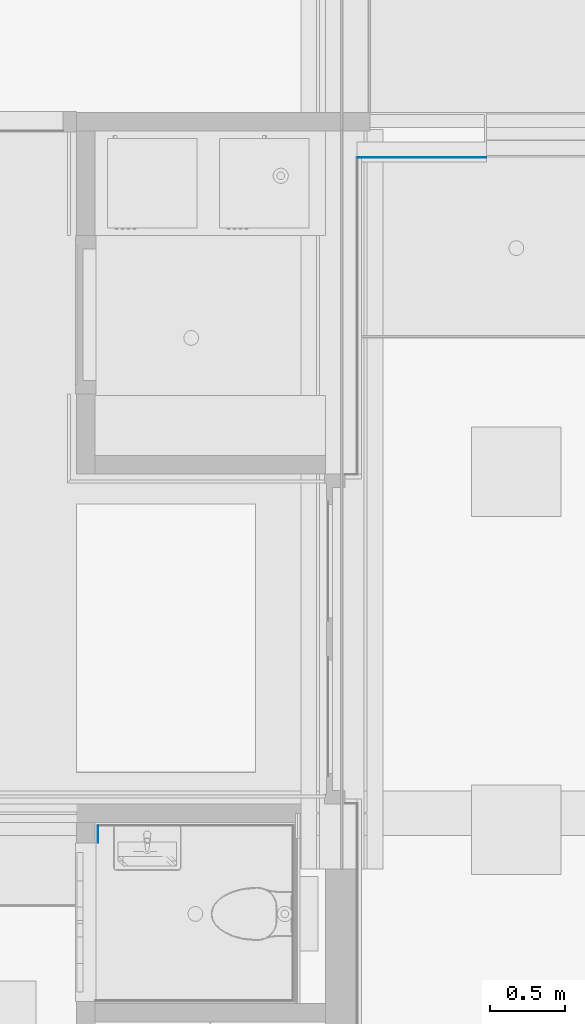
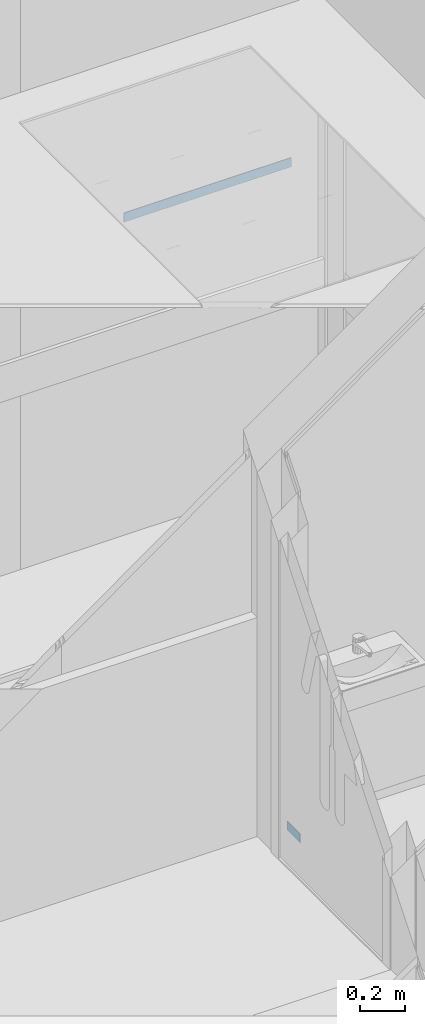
# One storey, part 129 of 347: 2 building element parts, 2 elements without a shape of their own.
"""IFC2X3 building model written with IfcOpenShell, lengths in millimetres."""

import ifcopenshell
import ifcopenshell.guid

model = None  # the IFC model being written
_history = None  # IfcOwnerHistory: only IFC2X3 demands one
_inside = {}  # id of a spatial element -> (the spatial element, [elements in it])
_under = {}  # id of a project, library or spatial element -> (it, [spatial elements below it])
_declared = {}  # id of a project -> (the project, [libraries it declares])
_typed = {}  # id of a type object -> (the type object, [elements of that type])
_made_of = {}  # id of a material, layer set ... -> (it, [elements and type objects made of it])


def new_model(schema):
    """Start an empty IFC model of exactly this schema.

    Asked for "IFC4X3", IfcOpenShell would pick the latest addendum, in which some entities
    have other attributes; the version numbers below select the first issue.
    IFC2X3 requires an IfcOwnerHistory on every rooted entity: one is made here for all.
    """
    global model, _history
    if schema == "IFC4X3":
        model = ifcopenshell.file(schema_version=(4, 3, 0, 0))
    else:
        model = ifcopenshell.file(schema=schema)
    _inside.clear()
    _under.clear()
    _declared.clear()
    _typed.clear()
    _made_of.clear()
    _history = None
    if model.schema == "IFC2X3":
        org = make("IfcOrganization", Name="unknown")
        user = make(
            "IfcPersonAndOrganization",
            ThePerson=make("IfcPerson", FamilyName="unknown"),
            TheOrganization=org,
        )
        app = make(
            "IfcApplication",
            ApplicationDeveloper=org,
            Version="unknown",
            ApplicationFullName="unknown",
            ApplicationIdentifier="unknown",
        )
        _history = make(
            "IfcOwnerHistory",
            OwningUser=user,
            OwningApplication=app,
            ChangeAction="ADDED",
            CreationDate=0,
        )
    return model


def make(cls, **values):
    """One entity of the class cls with the attributes given. An attribute that is None is left unset."""
    return model.create_entity(
        cls, **{name: value for name, value in values.items() if value is not None}
    )


def entity(cls, *values):
    """Any entity or typed value of the class cls, its attributes in the order of the schema. None: left unset."""
    e = model.create_entity(cls)
    for i, value in enumerate(values):
        if value is not None:
            e[i] = value
    return e


def rooted(cls, **values):
    """An entity with a GlobalId (a new one), such as an element, a storey or a relation."""
    return make(cls, GlobalId=ifcopenshell.guid.new(), OwnerHistory=_history, **values)


def si_unit(unit_type, name, prefix=None):
    """IfcSIUnit, for example si_unit("LENGTHUNIT", "METRE", prefix="MILLI")."""
    return make("IfcSIUnit", UnitType=unit_type, Prefix=prefix, Name=name)


def converted_unit(unit_type, name, factor, base, dimensions=None, offset=None):
    """IfcConversionBasedUnit, such as the inch: factor (a typed value) times the base unit."""
    return make(
        "IfcConversionBasedUnit"
        if offset is None
        else "IfcConversionBasedUnitWithOffset",
        ConversionOffset=offset,
        Dimensions=None
        if dimensions is None
        else entity("IfcDimensionalExponents", *dimensions),
        UnitType=unit_type,
        Name=name,
        ConversionFactor=make(
            "IfcMeasureWithUnit", ValueComponent=factor, UnitComponent=base
        ),
    )


def derived_unit(unit_type, elements):
    """IfcDerivedUnit: a product of units, each with its exponent."""
    return make(
        "IfcDerivedUnit",
        Elements=[
            make("IfcDerivedUnitElement", Unit=unit, Exponent=power)
            for unit, power in elements
        ],
        UnitType=unit_type,
    )


def money_unit(currency):
    """IfcMonetaryUnit."""
    return make("IfcMonetaryUnit", Currency=currency)


def assignment(units):
    """IfcUnitAssignment: the units of a project."""
    return None if units is None else make("IfcUnitAssignment", Units=units)


def point(xyz):
    """IfcCartesianPoint."""
    return None if xyz is None else make("IfcCartesianPoint", Coordinates=xyz)


def direction(xyz):
    """IfcDirection."""
    return None if xyz is None else make("IfcDirection", DirectionRatios=xyz)


def frame(location, z_axis=None, x_axis=None):
    """IfcAxis2Placement3D, a coordinate frame: its origin and axes. An axis left out is left unset."""
    return make(
        "IfcAxis2Placement3D",
        Location=point(location),
        Axis=direction(z_axis),
        RefDirection=direction(x_axis),
    )


def origin_with_axes():
    """The frame at (0, 0, 0) with the z axis (0, 0, 1) and the x axis (1, 0, 0) written out."""
    return frame((0.0, 0.0, 0.0), z_axis=(0.0, 0.0, 1.0), x_axis=(1.0, 0.0, 0.0))


def place(relative_to, where):
    """IfcLocalPlacement: puts the frame where relative to a parent placement (None: the world)."""
    return make(
        "IfcLocalPlacement", PlacementRelTo=relative_to, RelativePlacement=where
    )


def context(
    kind, dimensions, precision=None, world=None, true_north=None, identifier=None
):
    """IfcGeometricRepresentationContext, for example the 3D "Model" context."""
    return make(
        "IfcGeometricRepresentationContext",
        ContextIdentifier=identifier,
        ContextType=kind,
        CoordinateSpaceDimension=dimensions,
        Precision=precision,
        WorldCoordinateSystem=world,
        TrueNorth=true_north,
    )


def subcontext(parent, identifier, kind, view, scale=None):
    """IfcGeometricRepresentationSubContext, for example "Body" below "Model"."""
    return make(
        "IfcGeometricRepresentationSubContext",
        ContextIdentifier=identifier,
        ContextType=kind,
        ParentContext=parent,
        TargetScale=scale,
        TargetView=view,
    )


def project(units=None, contexts=None):
    """IfcProject with its units and contexts."""
    return rooted(
        "IfcProject",
        Name="project",
        RepresentationContexts=contexts,
        UnitsInContext=assignment(units),
    )


def spatial(cls, under=None, at=None, **own):
    """A site, building, storey or space (cls), placed at a placement, below another one or the project."""
    s = rooted(cls, ObjectPlacement=at, **own)
    if under is not None:
        _under.setdefault(under.id(), (under, []))[1].append(s)
    return s


def faces_of(points, faces, orient=None, outer=None):
    """IfcFace entities. A face is a list of loops; a loop is a list of indices into points, from 0.

    orient and outer hold one flag for each loop. By default every Orientation is true, the
    first loop of a face is its IfcFaceOuterBound and the others are IfcFaceBound.
    """
    made = []
    for i, loops in enumerate(faces):
        bounds = []
        for j, loop in enumerate(loops):
            is_outer = j == 0 if outer is None else outer[i][j]
            bounds.append(
                make(
                    "IfcFaceOuterBound" if is_outer else "IfcFaceBound",
                    Bound=make("IfcPolyLoop", Polygon=[points[k] for k in loop]),
                    Orientation=True if orient is None else orient[i][j],
                )
            )
        made.append(make("IfcFace", Bounds=bounds))
    return made


def faceted_brep(points, faces, orient=None, outer=None, voids=None):
    """IfcFacetedBrep: a solid bounded by flat faces; with voids (closed shells), ...WithVoids."""
    shared = [point(p) for p in points]
    hull = make("IfcClosedShell", CfsFaces=faces_of(shared, faces, orient, outer))
    if voids is None:
        return make("IfcFacetedBrep", Outer=hull)
    return make(
        "IfcFacetedBrepWithVoids",
        Outer=hull,
        Voids=[
            make(cls, CfsFaces=faces_of(shared, fs, o, b)) for cls, fs, o, b in voids
        ],
    )


def shape(context_of_items, identifier, shape_type, items):
    """IfcShapeRepresentation: the items that make up one representation, for example the "Body"."""
    return make(
        "IfcShapeRepresentation",
        ContextOfItems=context_of_items,
        RepresentationIdentifier=identifier,
        RepresentationType=shape_type,
        Items=items,
    )


def material(Name=None, Category=None):
    """IfcMaterial."""
    return make("IfcMaterial", Name=Name, Category=Category)


def made_of(thing, what):
    """Note that an element or type object is made of a material, layer set ...; save() writes the relation."""
    if what is not None:
        _made_of.setdefault(what.id(), (what, []))[1].append(thing)
    return thing


def type_object(cls, material=None, **own):
    """A type object (cls), such as IfcWallType, which elements share."""
    return made_of(rooted(cls, **own), material)


def element(
    cls,
    number,
    at=None,
    inside=None,
    cuts=None,
    type_object=None,
    material=None,
    context=None,
    identifier="Body",
    shape_type=None,
    held_by="IfcProductDefinitionShape",
    body=None,
    shapes=None,
    **own,
):
    """One element of the class cls, such as IfcWall. Its Tag is "e" and its number.

    at: its placement. inside: the storey or other place that contains it. cuts: it is an
    opening in that element (IfcRelVoidsElement). A single representation is given by context,
    identifier, shape_type and body (its items); several are given by shapes. held_by: the class
    of the entity that holds the representations. save() writes the other relations.
    """
    e = rooted(cls, Tag="e%d" % number, ObjectPlacement=at, **own)
    if body is not None:
        shapes = [shape(context, identifier, shape_type, body)]
    if shapes is not None:
        e.Representation = make(held_by, Representations=shapes)
    if inside is not None:
        _inside.setdefault(inside.id(), (inside, []))[1].append(e)
    if cuts is not None:
        rooted(
            "IfcRelVoidsElement", RelatingBuildingElement=cuts, RelatedOpeningElement=e
        )
    if type_object is not None:
        _typed.setdefault(type_object.id(), (type_object, []))[1].append(e)
    return made_of(e, material)


def aggregate(whole, parts):
    """IfcRelAggregates: a whole, such as a stair, and the parts it consists of."""
    return rooted("IfcRelAggregates", RelatingObject=whole, RelatedObjects=parts)


def save(model, path):
    """Write the relations noted so far, then the file.

    IfcRelAggregates (storeys below a building ...), IfcRelContainedInSpatialStructure (elements
    in a storey), IfcRelDefinesByType, IfcRelAssociatesMaterial and IfcRelDeclares: one each for
    every whole, place, type object, material and project.
    """
    for whole, parts in _under.values():
        aggregate(whole, parts)
    for where, things in _inside.values():
        rooted(
            "IfcRelContainedInSpatialStructure",
            RelatedElements=things,
            RelatingStructure=where,
        )
    for kind, things in _typed.values():
        rooted("IfcRelDefinesByType", RelatedObjects=things, RelatingType=kind)
    for what, things in _made_of.values():
        rooted("IfcRelAssociatesMaterial", RelatedObjects=things, RelatingMaterial=what)
    for by, libraries in _declared.values():
        rooted("IfcRelDeclares", RelatingContext=by, RelatedDefinitions=libraries)
    model.write(path)


model = new_model("IFC2X3")

# Units and contexts
model_context = context("Model", 3, precision=0.01, world=origin_with_axes(), true_north=direction((0.0, 1.0)))
plan_context = context("Plan", 3, precision=0.01, world=origin_with_axes(), true_north=direction((0.0, 1.0)))
body_context = subcontext(model_context, "Body", "Model", "MODEL_VIEW")
ifc_project = project(units=[si_unit("LENGTHUNIT", "METRE", prefix="MILLI"), si_unit("AREAUNIT", "SQUARE_METRE"), si_unit("VOLUMEUNIT", "CUBIC_METRE"), converted_unit("PLANEANGLEUNIT", "DEGREE", entity("IfcPlaneAngleMeasure", 0.0174532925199), si_unit("PLANEANGLEUNIT", "RADIAN"), dimensions=[0, 0, 0, 0, 0, 0, 0]), money_unit("EUR"), converted_unit("TIMEUNIT", "Year", entity("IfcTimeMeasure", 31556926.0), si_unit("TIMEUNIT", "SECOND"), dimensions=[0, 0, 1, 0, 0, 0, 0]), si_unit("MASSUNIT", "GRAM", prefix="KILO"), si_unit("THERMODYNAMICTEMPERATUREUNIT", "DEGREE_CELSIUS"), si_unit("LUMINOUSINTENSITYUNIT", "LUMEN"), si_unit("ENERGYUNIT", "JOULE", prefix="MEGA"), derived_unit("THERMALCONDUCTANCEUNIT", [(si_unit("POWERUNIT", "WATT"), 1), (si_unit("LENGTHUNIT", "METRE"), -1), (si_unit("THERMODYNAMICTEMPERATUREUNIT", "KELVIN"), -1)]), derived_unit("SPECIFICHEATCAPACITYUNIT", [(si_unit("ENERGYUNIT", "JOULE"), 1), (si_unit("MASSUNIT", "GRAM", prefix="KILO"), -1), (si_unit("THERMODYNAMICTEMPERATUREUNIT", "KELVIN"), -1)]), derived_unit("MASSDENSITYUNIT", [(si_unit("MASSUNIT", "GRAM", prefix="KILO"), 1), (si_unit("VOLUMEUNIT", "CUBIC_METRE"), -1)])], contexts=[model_context, plan_context])

# Site, building, storey
site_placement = place(None, origin_with_axes())
site = spatial("IfcSite", under=ifc_project, at=site_placement, Name="Site", CompositionType="ELEMENT")
building_placement = place(site_placement, origin_with_axes())
building = spatial("IfcBuilding", under=site, at=building_placement, Name="Naam gebouw", CompositionType="ELEMENT")
storey_placement = place(building_placement, origin_with_axes())
storey = spatial("IfcBuildingStorey", under=building, at=storey_placement, Name="begane grond", CompositionType="ELEMENT", Elevation=0.0)

# Proxy, building element part
building_element_proxy_type_1 = type_object("IfcBuildingElementProxyType", Name="wandtegels 150x300 2600+ 10 x 2600", PredefinedType="NOTDEFINED")
proxy_1_placement = place(storey_placement, frame((33960.0, 12052.5, 0.0), z_axis=(0.0, 0.0, 1.0), x_axis=(0.0, -1.0, 0.0)))
proxy_1 = element("IfcBuildingElementProxy", 1, at=proxy_1_placement, inside=storey, type_object=building_element_proxy_type_1, Name="42_61 wandtegels keramisch")
ifc_material_1 = material(Name="48 vloeivloer Bolidt")
building_element_part_1_placement = place(proxy_1_placement, origin_with_axes())
building_element_part_1 = element("IfcBuildingElementPart", 2, at=building_element_part_1_placement, material=ifc_material_1, Name="48 vloeivloer Bolidt", context=body_context, shape_type="Brep", body=[
    faceted_brep([(10.0000089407, 10.0000089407, 0.0), (10.0000089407, 10.0000089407, 50.0000059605), (126.0, 10.0000089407, 50.0000059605), (126.0, 10.0000089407, 0.0), (10.0000089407, 8.00001490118, 50.0000059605), (10.0000089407, 8.00001490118, 0.0), (126.0, 8.00001490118, 50.0000059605), (126.0, 8.00001490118, 0.0)], [[[0, 1, 2, 3]], [[4, 1, 0, 5]], [[1, 4, 6, 2]], [[6, 7, 3, 2]], [[5, 0, 3, 7]], [[4, 5, 7, 6]]]),
])
aggregate(proxy_1, [building_element_part_1])

building_element_proxy_type_2 = type_object("IfcBuildingElementProxyType", Name="Viltonwand 2600+ 33 x 2600", PredefinedType="NOTDEFINED")
proxy_2_placement = place(storey_placement, frame((35705.0, 16525.0, 0.0), z_axis=(0.0, 0.0, 1.0), x_axis=(1.0, 0.0, 0.0)))
proxy_2 = element("IfcBuildingElementProxy", 3, at=proxy_2_placement, inside=storey, type_object=building_element_proxy_type_2, Name="42_48 wandtegels keramisch")
ifc_material_2 = material(Name="Kunststof - massief")
building_element_part_2_placement = place(proxy_2_placement, origin_with_axes())
building_element_part_2 = element("IfcBuildingElementPart", 4, at=building_element_part_2_placement, material=ifc_material_2, Name="Kunststof - massief", context=body_context, shape_type="Brep", body=[
    faceted_brep([(5.00000596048, 1.78814119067e-05, 0.0), (5.00000596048, 1.78814119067e-05, 50.0000059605), (870.000100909, 1.78814154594e-05, 50.0000059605), (870.000100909, 1.78814154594e-05, 0.0), (5.00000596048, -5.00000596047, 50.0000059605), (5.00000596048, -5.00000596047, 0.0), (870.000100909, -5.00000596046, 50.0000059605), (870.000100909, -5.00000596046, 0.0)], [[[0, 1, 2, 3]], [[4, 1, 0, 5]], [[1, 4, 6, 2]], [[6, 7, 3, 2]], [[5, 0, 3, 7]], [[4, 5, 7, 6]]]),
])
aggregate(proxy_2, [building_element_part_2])

save(model, "model.ifc")
